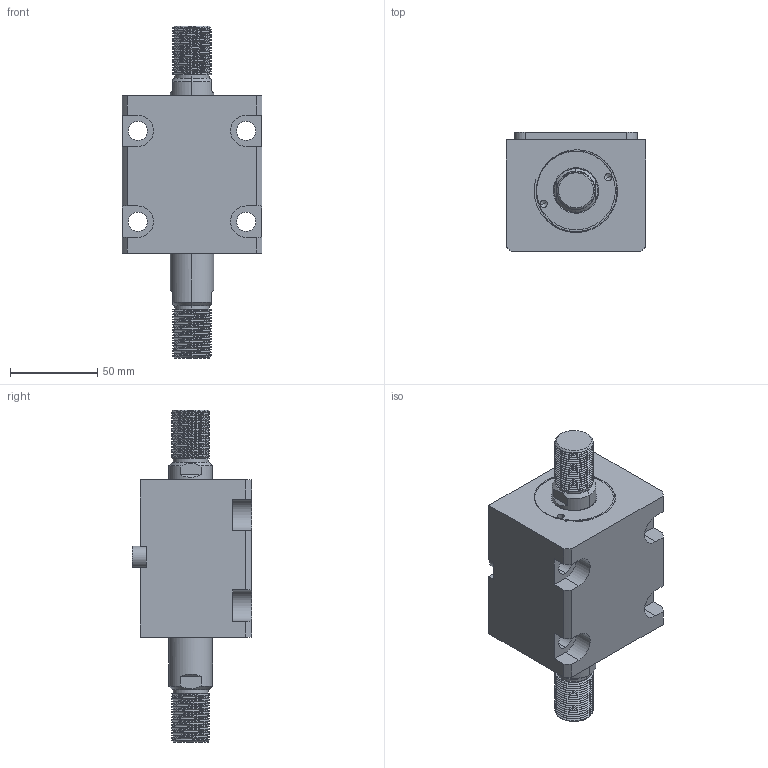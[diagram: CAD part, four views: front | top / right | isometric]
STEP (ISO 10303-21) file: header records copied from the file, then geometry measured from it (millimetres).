
FILE_DESCRIPTION (( 'STEP AP214' ), '1' );
FILE_NAME ('chtb-lwm40x20w_asm.STEP', '2018-05-31T00:31:20', ( 'Windows' ), ( 'Microsoft' ), 'SwSTEP 2.0', 'SolidWorks 2015', '' );
FILE_SCHEMA (( 'AUTOMOTIVE_DESIGN' ));
Length unit declared in the file: millimetre
Products named in the file (5): CHTB-SW40X20NHSG; CHTB-SD40QG; CHTB-LA40PJ; CHTB-LWM40X20NBT; chtb-lwm40x20w_asm
Assembly tree (4 placements, depth 2):
  chtb-lwm40x20w_asm
    CHTB-LWM40X20NBT
    CHTB-LA40PJ
    CHTB-SD40QG
    CHTB-SW40X20NHSG
Bounding box: 80 x 68.5 x 190 mm (x, y, z)
Volume: 452704.4 mm3; surface area: 87850 mm2
Topology: 4 solids, 4 shells, 252 faces, 699 edges, 465 vertices
Faces by surface type: cylinder 152, plane 57, bspline 18, cone 13, torus 12
Entity records: 17373 total; most frequent: CARTESIAN_POINT 11260, ORIENTED_EDGE 1386, DIRECTION 1092, EDGE_CURVE 693, VERTEX_POINT 465, AXIS2_PLACEMENT_3D 419, EDGE_LOOP 284, VECTOR 254
